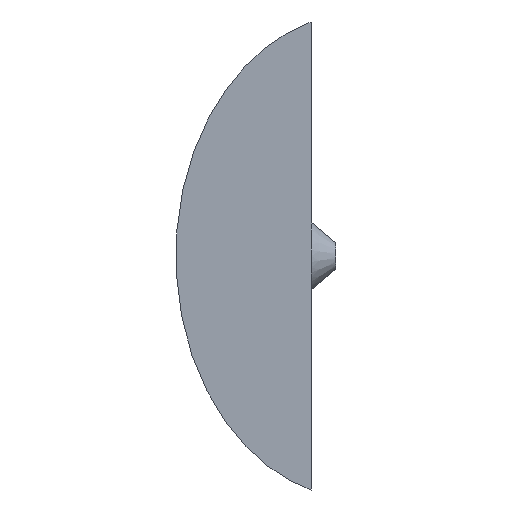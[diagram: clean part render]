
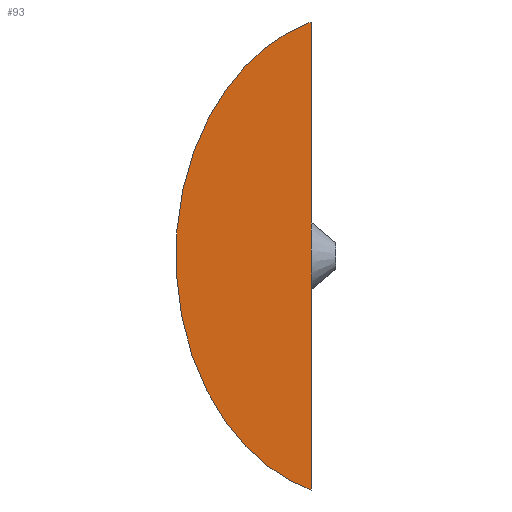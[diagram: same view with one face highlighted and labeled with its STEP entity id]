
A CAD part, left-side view. The second image highlights one B-rep face of the part: STEP entity #93.
In plain terms, the highlighted planar face has unit normal (-1, 0, 0).
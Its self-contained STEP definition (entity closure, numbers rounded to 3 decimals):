
#1 = VERTEX_POINT ( 'NONE', #283 ) ;
#10 = CARTESIAN_POINT ( 'NONE',  ( 0., 2., -19.483 ) ) ;
#11 = DIRECTION ( 'NONE',  ( 0., 0., 1. ) ) ;
#28 = CARTESIAN_POINT ( 'NONE',  ( 0., 16.478, 2.669 ) ) ;
#29 = DIRECTION ( 'NONE',  ( 0., 0.904, -0.428 ) ) ;
#41 = AXIS2_PLACEMENT_3D ( 'NONE', #274, #204, #205 ) ;
#55 = EDGE_CURVE ( 'NONE', #320, #315, #81, .T. ) ;
#63 = EDGE_CURVE ( 'NONE', #1, #315, #155, .T. ) ;
#68 = EDGE_CURVE ( 'NONE', #320, #1, #138, .T. ) ;
#81 =( BOUNDED_CURVE ( )  B_SPLINE_CURVE ( 3, ( #291, #292, #293, #294 ),
 .UNSPECIFIED., .F., .T. ) 
 B_SPLINE_CURVE_WITH_KNOTS ( ( 4, 4 ),
 ( 3.412, 5.863 ),
 .UNSPECIFIED. ) 
 CURVE ( )  GEOMETRIC_REPRESENTATION_ITEM ( )  RATIONAL_B_SPLINE_CURVE ( ( 1., 0.559, 0.559, 1. ) ) 
 REPRESENTATION_ITEM ( '' )  );
#93 = ADVANCED_FACE ( 'NONE', ( #198 ), #273, .F. ) ;
#102 = ORIENTED_EDGE ( 'NONE', *, *, #63, .T. ) ;
#131 = ORIENTED_EDGE ( 'NONE', *, *, #68, .T. ) ;
#134 = EDGE_LOOP ( 'NONE', ( #131, #102, #144 ) ) ;
#138 = LINE ( 'NONE', #10, #165 ) ;
#144 = ORIENTED_EDGE ( 'NONE', *, *, #55, .F. ) ;
#155 = LINE ( 'NONE', #28, #159 ) ;
#159 = VECTOR ( 'NONE', #29, 1000. ) ;
#165 = VECTOR ( 'NONE', #11, 1000. ) ;
#198 = FACE_OUTER_BOUND ( 'NONE', #134, .T. ) ;
#204 = DIRECTION ( 'NONE',  ( 1., 0., 0. ) ) ;
#205 = DIRECTION ( 'NONE',  ( 0., 0., -1. ) ) ;
#217 = CARTESIAN_POINT ( 'NONE',  ( 0., 3.057, 9.017 ) ) ;
#218 = CARTESIAN_POINT ( 'NONE',  ( 0., 2., -9.517 ) ) ;
#273 = PLANE ( 'NONE',  #41 ) ;
#274 = CARTESIAN_POINT ( 'NONE',  ( 0., 6., -19.483 ) ) ;
#283 = CARTESIAN_POINT ( 'NONE',  ( 0., 2., 9.517 ) ) ;
#291 = CARTESIAN_POINT ( 'NONE',  ( 0., 2., -9.517 ) ) ;
#292 = CARTESIAN_POINT ( 'NONE',  ( 0., 10.117, -6.56 ) ) ;
#293 = CARTESIAN_POINT ( 'NONE',  ( 0., 10.748, 4.497 ) ) ;
#294 = CARTESIAN_POINT ( 'NONE',  ( 0., 3.057, 9.017 ) ) ;
#315 = VERTEX_POINT ( 'NONE', #217 ) ;
#320 = VERTEX_POINT ( 'NONE', #218 ) ;
